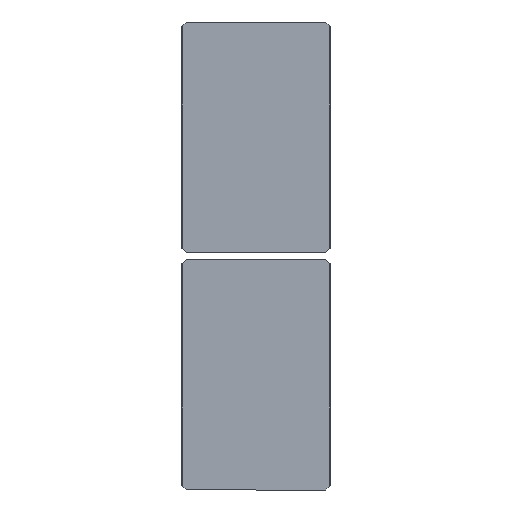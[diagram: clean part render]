
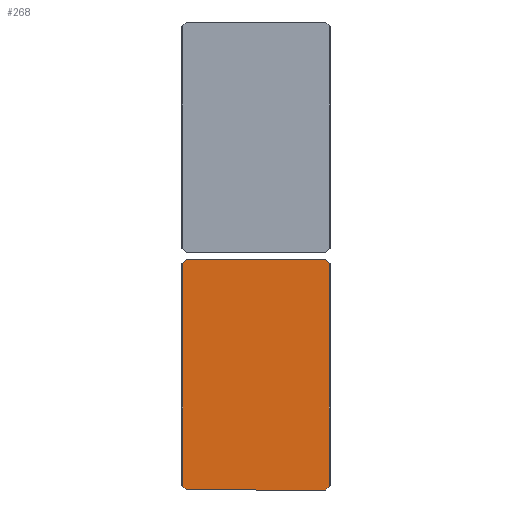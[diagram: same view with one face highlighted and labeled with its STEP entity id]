
A CAD part, front view. The second image highlights one B-rep face of the part: STEP entity #268.
In plain terms, the highlighted planar face has unit normal (0, -1, 0).
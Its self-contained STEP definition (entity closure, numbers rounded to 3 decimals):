
#58 = EDGE_LOOP ( 'NONE', ( #743, #1149, #352, #973, #1169, #387, #1411, #851 ) ) ;
#77 = VERTEX_POINT ( 'NONE', #705 ) ;
#91 = CARTESIAN_POINT ( 'NONE',  ( -180., 0., -273.75 ) ) ;
#106 = CARTESIAN_POINT ( 'NONE',  ( -171., 0., 282.75 ) ) ;
#121 = VECTOR ( 'NONE', #982, 1000. ) ;
#134 = CARTESIAN_POINT ( 'NONE',  ( -171., 0., -282.75 ) ) ;
#174 = DIRECTION ( 'NONE',  ( 0., -1., 0. ) ) ;
#215 = LINE ( 'NONE', #106, #610 ) ;
#218 = DIRECTION ( 'NONE',  ( 1., 0., 0. ) ) ;
#222 = DIRECTION ( 'NONE',  ( 0.707, 0., 0.707 ) ) ;
#268 = ADVANCED_FACE ( 'NONE', ( #318 ), #866, .T. ) ;
#290 = CARTESIAN_POINT ( 'NONE',  ( -171., 0., -282.75 ) ) ;
#298 = LINE ( 'NONE', #1194, #1391 ) ;
#318 = FACE_OUTER_BOUND ( 'NONE', #58, .T. ) ;
#337 = CARTESIAN_POINT ( 'NONE',  ( 180., 0., 272.75 ) ) ;
#352 = ORIENTED_EDGE ( 'NONE', *, *, #1094, .F. ) ;
#387 = ORIENTED_EDGE ( 'NONE', *, *, #865, .T. ) ;
#398 = LINE ( 'NONE', #290, #1369 ) ;
#401 = LINE ( 'NONE', #977, #121 ) ;
#420 = CARTESIAN_POINT ( 'NONE',  ( 180., 0., -273.75 ) ) ;
#422 = VECTOR ( 'NONE', #1225, 1000. ) ;
#426 = EDGE_CURVE ( 'NONE', #671, #1429, #770, .T. ) ;
#445 = CARTESIAN_POINT ( 'NONE',  ( -171., 0., 282.75 ) ) ;
#484 = DIRECTION ( 'NONE',  ( -1., 0., 0. ) ) ;
#541 = EDGE_CURVE ( 'NONE', #712, #1338, #830, .T. ) ;
#610 = VECTOR ( 'NONE', #222, 1000. ) ;
#620 = DIRECTION ( 'NONE',  ( 0.707, 0., -0.707 ) ) ;
#664 = EDGE_CURVE ( 'NONE', #77, #1223, #401, .T. ) ;
#671 = VERTEX_POINT ( 'NONE', #871 ) ;
#679 = CARTESIAN_POINT ( 'NONE',  ( 171., 0., -282.75 ) ) ;
#705 = CARTESIAN_POINT ( 'NONE',  ( -180., 0., 273.75 ) ) ;
#712 = VERTEX_POINT ( 'NONE', #1088 ) ;
#743 = ORIENTED_EDGE ( 'NONE', *, *, #877, .F. ) ;
#765 = VERTEX_POINT ( 'NONE', #420 ) ;
#770 = LINE ( 'NONE', #445, #1040 ) ;
#775 = LINE ( 'NONE', #337, #422 ) ;
#830 = LINE ( 'NONE', #955, #1139 ) ;
#851 = ORIENTED_EDGE ( 'NONE', *, *, #426, .F. ) ;
#865 = EDGE_CURVE ( 'NONE', #765, #932, #775, .T. ) ;
#866 = PLANE ( 'NONE',  #1371 ) ;
#871 = CARTESIAN_POINT ( 'NONE',  ( -171., 0., 282.75 ) ) ;
#877 = EDGE_CURVE ( 'NONE', #77, #671, #215, .T. ) ;
#884 = EDGE_CURVE ( 'NONE', #765, #712, #1458, .T. ) ;
#932 = VERTEX_POINT ( 'NONE', #1033 ) ;
#955 = CARTESIAN_POINT ( 'NONE',  ( -171., 0., -282.75 ) ) ;
#973 = ORIENTED_EDGE ( 'NONE', *, *, #541, .F. ) ;
#975 = DIRECTION ( 'NONE',  ( -0.707, 0., 0.707 ) ) ;
#977 = CARTESIAN_POINT ( 'NONE',  ( -180., 0., -272.75 ) ) ;
#982 = DIRECTION ( 'NONE',  ( 0., 0., -1. ) ) ;
#1021 = DIRECTION ( 'NONE',  ( -0.707, 0., -0.707 ) ) ;
#1033 = CARTESIAN_POINT ( 'NONE',  ( 180., 0., 273.75 ) ) ;
#1040 = VECTOR ( 'NONE', #218, 1000. ) ;
#1047 = CARTESIAN_POINT ( 'NONE',  ( 171., 0., 282.75 ) ) ;
#1073 = DIRECTION ( 'NONE',  ( 0., 0., -1. ) ) ;
#1088 = CARTESIAN_POINT ( 'NONE',  ( 171., 0., -282.75 ) ) ;
#1094 = EDGE_CURVE ( 'NONE', #1338, #1223, #398, .T. ) ;
#1139 = VECTOR ( 'NONE', #484, 1000. ) ;
#1149 = ORIENTED_EDGE ( 'NONE', *, *, #664, .T. ) ;
#1156 = EDGE_CURVE ( 'NONE', #1429, #932, #298, .T. ) ;
#1169 = ORIENTED_EDGE ( 'NONE', *, *, #884, .F. ) ;
#1194 = CARTESIAN_POINT ( 'NONE',  ( 171., 0., 282.75 ) ) ;
#1223 = VERTEX_POINT ( 'NONE', #91 ) ;
#1225 = DIRECTION ( 'NONE',  ( 0., 0., 1. ) ) ;
#1314 = CARTESIAN_POINT ( 'NONE',  ( 0., 0., 0. ) ) ;
#1338 = VERTEX_POINT ( 'NONE', #134 ) ;
#1369 = VECTOR ( 'NONE', #975, 1000. ) ;
#1371 = AXIS2_PLACEMENT_3D ( 'NONE', #1314, #174, #1073 ) ;
#1391 = VECTOR ( 'NONE', #620, 1000. ) ;
#1411 = ORIENTED_EDGE ( 'NONE', *, *, #1156, .F. ) ;
#1429 = VERTEX_POINT ( 'NONE', #1047 ) ;
#1438 = VECTOR ( 'NONE', #1021, 1000. ) ;
#1458 = LINE ( 'NONE', #679, #1438 ) ;
